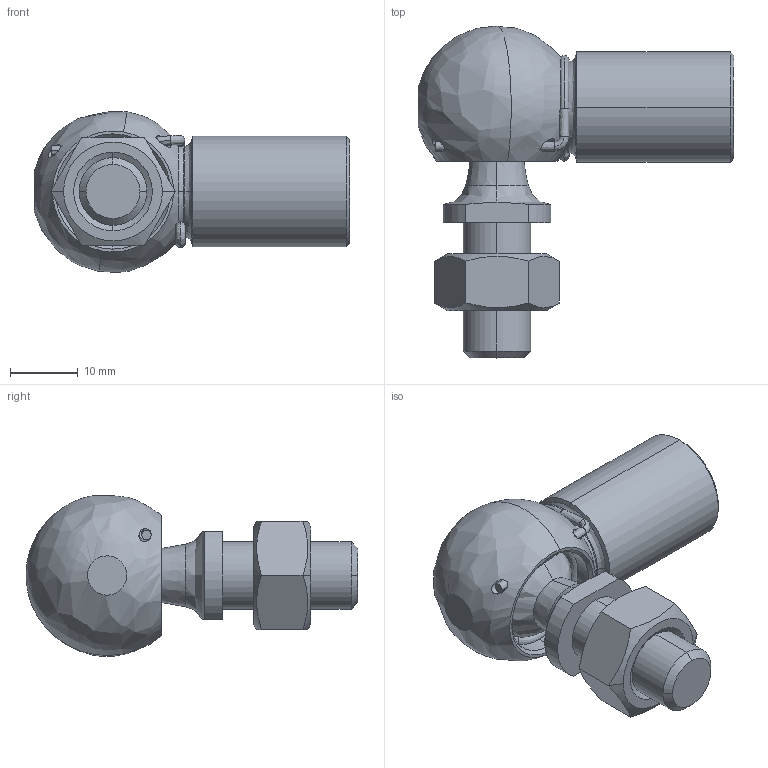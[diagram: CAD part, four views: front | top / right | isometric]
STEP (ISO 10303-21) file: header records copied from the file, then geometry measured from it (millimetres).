
FILE_DESCRIPTION (( 'STEP AP214' ), '1' );
FILE_NAME ('13.CS16M8M10.STEP', '2017-10-28T10:53:41', ( '' ), ( '' ), 'SwSTEP 2.0', 'SolidWorks 2016', '' );
FILE_SCHEMA (( 'AUTOMOTIVE_DESIGN' ));
Length unit declared in the file: millimetre
Products named in the file (1): 13.CS16M8M10
Bounding box: 46.64 x 49.06 x 23.77 mm (x, y, z)
Volume: 13896.2 mm3; surface area: 6777.9 mm2
Topology: 1 solids, 1 shells, 108 faces, 315 edges, 199 vertices
Faces by surface type: bspline 38, plane 25, cone 23, cylinder 22
Entity records: 6075 total; most frequent: CARTESIAN_POINT 3495, ORIENTED_EDGE 610, DIRECTION 444, EDGE_CURVE 305, VERTEX_POINT 199, AXIS2_PLACEMENT_3D 183, EDGE_LOOP 122, CIRCLE 112
